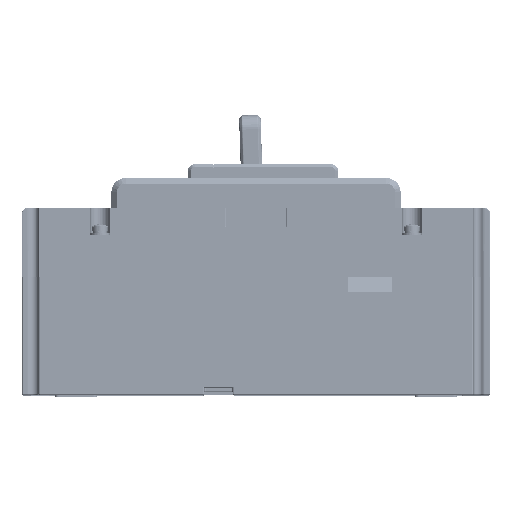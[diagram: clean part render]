
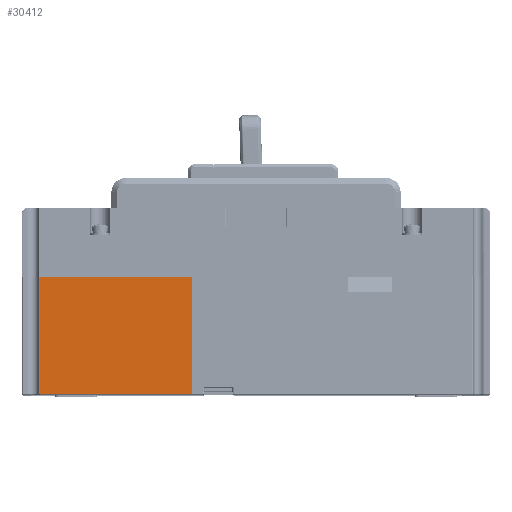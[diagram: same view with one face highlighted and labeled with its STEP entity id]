
A CAD part, top view. The second image highlights one B-rep face of the part: STEP entity #30412.
In plain terms, the highlighted planar face has unit normal (0, 0, 1).
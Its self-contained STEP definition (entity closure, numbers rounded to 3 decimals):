
#4278=DIRECTION('',(0.,-1.,0.));
#4279=VECTOR('',#4278,41.);
#4280=CARTESIAN_POINT('',(-76.151,8.7,53.5));
#4281=LINE('',#4280,#4279);
#4282=DIRECTION('',(1.,0.,0.));
#4283=VECTOR('',#4282,53.651);
#4284=CARTESIAN_POINT('',(-76.151,8.7,53.5));
#4285=LINE('',#4284,#4283);
#4286=DIRECTION('',(0.,-1.,0.));
#4287=VECTOR('',#4286,41.);
#4288=CARTESIAN_POINT('',(-22.5,8.7,53.5));
#4289=LINE('',#4288,#4287);
#4294=DIRECTION('',(1.,0.,0.));
#4295=VECTOR('',#4294,53.651);
#4296=CARTESIAN_POINT('',(-76.151,-32.3,53.5));
#4297=LINE('',#4296,#4295);
#20210=CARTESIAN_POINT('',(-22.5,8.7,53.5));
#20211=VERTEX_POINT('',#20210);
#20212=CARTESIAN_POINT('',(-76.151,8.7,53.5));
#20213=VERTEX_POINT('',#20212);
#22500=CARTESIAN_POINT('',(-76.151,-32.3,53.5));
#22501=VERTEX_POINT('',#22500);
#22510=CARTESIAN_POINT('',(-22.5,-32.3,53.5));
#22511=VERTEX_POINT('',#22510);
#30399=CARTESIAN_POINT('',(0.,0.,53.5));
#30400=DIRECTION('',(0.,0.,1.));
#30401=DIRECTION('',(1.,0.,0.));
#30402=AXIS2_PLACEMENT_3D('',#30399,#30400,#30401);
#30403=PLANE('',#30402);
#30405=ORIENTED_EDGE('',*,*,#30404,.F.);
#30406=ORIENTED_EDGE('',*,*,#30394,.F.);
#30407=ORIENTED_EDGE('',*,*,#29211,.T.);
#30409=ORIENTED_EDGE('',*,*,#30408,.T.);
#30410=EDGE_LOOP('',(#30405,#30406,#30407,#30409));
#30411=FACE_OUTER_BOUND('',#30410,.F.);
#30412=ADVANCED_FACE('',(#30411),#30403,.T.);
#29211=EDGE_CURVE('',#20213,#20211,#4285,.T.);
#30394=EDGE_CURVE('',#20213,#22501,#4281,.T.);
#30404=EDGE_CURVE('',#22501,#22511,#4297,.T.);
#30408=EDGE_CURVE('',#20211,#22511,#4289,.T.);
